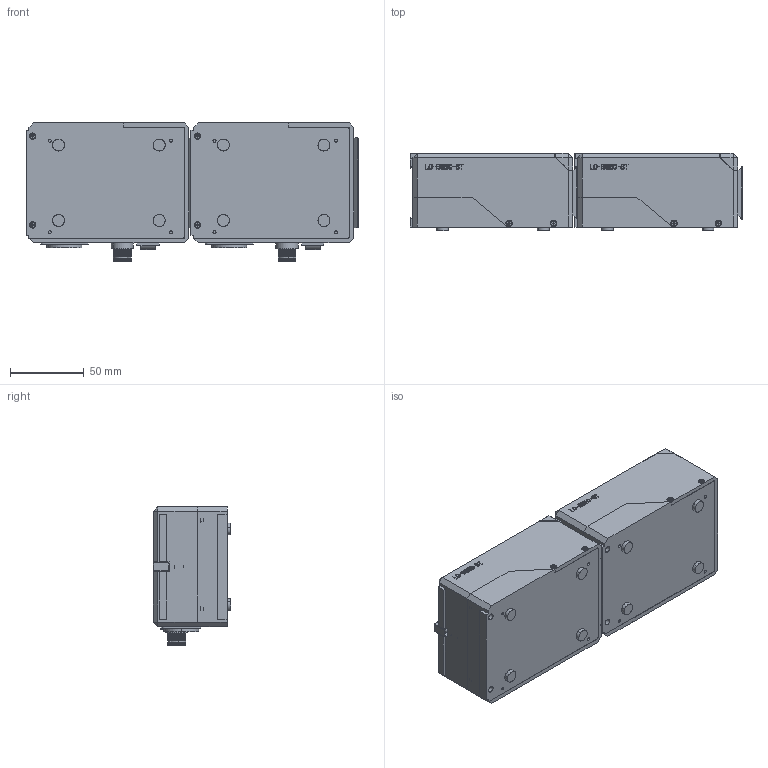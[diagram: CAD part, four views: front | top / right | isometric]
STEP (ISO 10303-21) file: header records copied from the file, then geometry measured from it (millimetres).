
FILE_DESCRIPTION (( 'STEP AP214' ), '1' );
FILE_NAME ('薊齬諷秶ん.STEP', '2026-07-01T03:32:52', ( '' ), ( '' ), 'SwSTEP 2.0', 'SolidWorks 2024', '' );
FILE_SCHEMA (( 'AUTOMOTIVE_DESIGN' ));
Length unit declared in the file: millimetre
Products named in the file (15): DB9模块; hexagon socket head cap screws gb_GB_FASTENER_SCREWS_HSHCS M2.5X12-N; 主板; 开关; 锁紧块; 角标; 垫高柱; 上罩壳; hexagon socket head cap screws gb_GB_FASTENER_SCREWS_HSHCS M2X5-N; 联排控制器; 自研单片机板卡设计控制器外壳; 垫脚; cross recessed countersunk head screws gb1_GB_CROSS_SCREWS_TYPE4 M2X5-3.8  H type-N; 保险座; 下罩壳
Assembly tree (27 placements, depth 3):
  联排控制器
    自研单片机板卡设计控制器外壳  x2
      下罩壳
      上罩壳
      开关
      DB9模块
      保险座
      主板
      垫高柱
      hexagon socket head cap screws gb_GB_FASTENER_SCREWS_HSHCS M2X5-N
      cross recessed countersunk head screws gb1_GB_CROSS_SCREWS_TYPE4 M2X5-3.8  H type-N
      垫脚
      锁紧块
      hexagon socket head cap screws gb_GB_FASTENER_SCREWS_HSHCS M2.5X12-N
      角标
Bounding box: 224.4 x 52.5 x 93.5 mm (x, y, z)
Volume: 325118.7 mm3; surface area: 206543.6 mm2
Topology: 50 solids, 50 shells, 2180 faces, 5658 edges, 3658 vertices
Faces by surface type: plane 1362, cylinder 598, cone 112, bspline 96, torus 12
Entity records: 31339 total; most frequent: CARTESIAN_POINT 8089, ORIENTED_EDGE 4770, DIRECTION 4587, EDGE_CURVE 2385, LINE 1775, VECTOR 1775, VERTEX_POINT 1560, AXIS2_PLACEMENT_3D 1406
